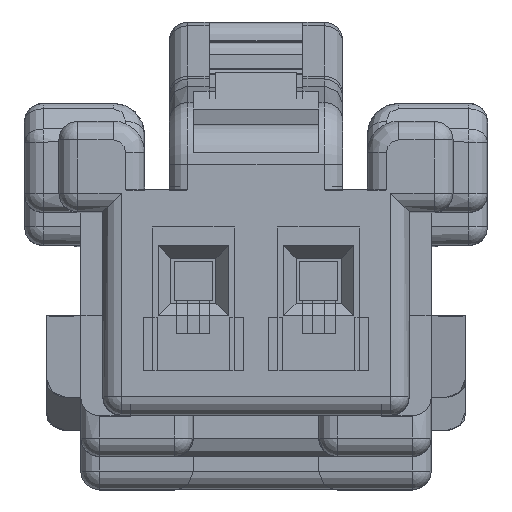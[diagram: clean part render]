
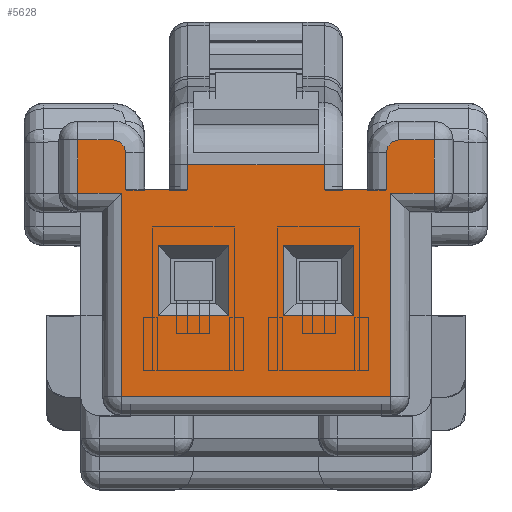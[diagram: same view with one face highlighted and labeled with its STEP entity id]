
A CAD part, top view. The second image highlights one B-rep face of the part: STEP entity #5628.
In plain terms, the highlighted planar face has unit normal (0, 0, 1).
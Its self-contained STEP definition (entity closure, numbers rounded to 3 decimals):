
#1=DIRECTION('',(0.,1.,0.));
#2=VECTOR('',#1,1.12);
#3=CARTESIAN_POINT('',(0.56,1.59,10.4));
#4=LINE('',#3,#2);
#17=DIRECTION('',(-1.,0.,0.));
#18=VECTOR('',#17,1.12);
#19=CARTESIAN_POINT('',(0.56,2.71,10.4));
#20=LINE('',#19,#18);
#37=DIRECTION('',(0.,-1.,0.));
#38=VECTOR('',#37,1.12);
#39=CARTESIAN_POINT('',(-0.56,2.71,10.4));
#40=LINE('',#39,#38);
#45=DIRECTION('',(1.,0.,0.));
#46=VECTOR('',#45,1.12);
#47=CARTESIAN_POINT('',(-0.56,1.59,10.4));
#48=LINE('',#47,#46);
#53=CARTESIAN_POINT('',(3.28,4.2,10.4));
#54=DIRECTION('',(0.,0.,1.));
#55=DIRECTION('',(0.,1.,0.));
#56=AXIS2_PLACEMENT_3D('',#53,#54,#55);
#58=CARTESIAN_POINT('',(-1.28,4.2,10.4));
#59=DIRECTION('',(0.,0.,1.));
#60=DIRECTION('',(1.,0.,0.));
#61=AXIS2_PLACEMENT_3D('',#58,#59,#60);
#63=DIRECTION('',(0.,1.,0.));
#64=VECTOR('',#63,1.12);
#65=CARTESIAN_POINT('',(2.56,1.59,10.4));
#66=LINE('',#65,#64);
#79=DIRECTION('',(-1.,0.,0.));
#80=VECTOR('',#79,1.12);
#81=CARTESIAN_POINT('',(2.56,2.71,10.4));
#82=LINE('',#81,#80);
#99=DIRECTION('',(0.,-1.,0.));
#100=VECTOR('',#99,1.12);
#101=CARTESIAN_POINT('',(1.44,2.71,10.4));
#102=LINE('',#101,#100);
#107=DIRECTION('',(1.,0.,0.));
#108=VECTOR('',#107,1.12);
#109=CARTESIAN_POINT('',(1.44,1.59,10.4));
#110=LINE('',#109,#108);
#458=DIRECTION('',(1.,0.,0.));
#459=VECTOR('',#458,0.99);
#460=CARTESIAN_POINT('',(-1.08,3.6,10.4));
#461=LINE('',#460,#459);
#486=DIRECTION('',(1.,0.,0.));
#487=VECTOR('',#486,0.99);
#488=CARTESIAN_POINT('',(2.09,3.6,10.4));
#489=LINE('',#488,#487);
#508=DIRECTION('',(0.,-1.,0.));
#509=VECTOR('',#508,0.6);
#510=CARTESIAN_POINT('',(-1.08,4.2,10.4));
#511=LINE('',#510,#509);
#531=DIRECTION('',(1.,0.,0.));
#532=VECTOR('',#531,0.57);
#533=CARTESIAN_POINT('',(-1.85,4.4,10.4));
#534=LINE('',#533,#532);
#554=DIRECTION('',(0.,1.,0.));
#555=VECTOR('',#554,0.85);
#556=CARTESIAN_POINT('',(-1.85,3.55,10.4));
#557=LINE('',#556,#555);
#577=DIRECTION('',(-1.,0.,0.));
#578=VECTOR('',#577,0.7);
#579=CARTESIAN_POINT('',(-1.15,3.55,10.4));
#580=LINE('',#579,#578);
#593=DIRECTION('',(0.,1.,0.));
#594=VECTOR('',#593,3.25);
#595=CARTESIAN_POINT('',(-1.15,0.3,10.4));
#596=LINE('',#595,#594);
#616=DIRECTION('',(-1.,0.,0.));
#617=VECTOR('',#616,4.3);
#618=CARTESIAN_POINT('',(3.15,0.3,10.4));
#619=LINE('',#618,#617);
#639=DIRECTION('',(0.,-1.,0.));
#640=VECTOR('',#639,3.25);
#641=CARTESIAN_POINT('',(3.15,3.55,10.4));
#642=LINE('',#641,#640);
#655=DIRECTION('',(-1.,0.,0.));
#656=VECTOR('',#655,0.7);
#657=CARTESIAN_POINT('',(3.85,3.55,10.4));
#658=LINE('',#657,#656);
#682=DIRECTION('',(0.,-1.,0.));
#683=VECTOR('',#682,0.85);
#684=CARTESIAN_POINT('',(3.85,4.4,10.4));
#685=LINE('',#684,#683);
#3277=DIRECTION('',(1.,0.,0.));
#3278=VECTOR('',#3277,0.57);
#3279=CARTESIAN_POINT('',(3.28,4.4,10.4));
#3280=LINE('',#3279,#3278);
#3300=DIRECTION('',(0.,1.,0.));
#3301=VECTOR('',#3300,0.6);
#3302=CARTESIAN_POINT('',(3.08,3.6,10.4));
#3303=LINE('',#3302,#3301);
#3487=DIRECTION('',(0.,-1.,0.));
#3488=VECTOR('',#3487,0.405);
#3489=CARTESIAN_POINT('',(2.09,4.005,10.4));
#3490=LINE('',#3489,#3488);
#3518=DIRECTION('',(1.,0.,0.));
#3519=VECTOR('',#3518,2.18);
#3520=CARTESIAN_POINT('',(-0.09,4.005,10.4));
#3521=LINE('',#3520,#3519);
#4235=DIRECTION('',(0.,1.,0.));
#4236=VECTOR('',#4235,0.405);
#4237=CARTESIAN_POINT('',(-0.09,3.6,10.4));
#4238=LINE('',#4237,#4236);
#4465=CARTESIAN_POINT('',(2.56,1.59,10.4));
#4466=CARTESIAN_POINT('',(2.56,2.71,10.4));
#4467=VERTEX_POINT('',#4465);
#4468=VERTEX_POINT('',#4466);
#4469=CARTESIAN_POINT('',(1.44,1.59,10.4));
#4470=VERTEX_POINT('',#4469);
#4471=CARTESIAN_POINT('',(1.44,2.71,10.4));
#4472=VERTEX_POINT('',#4471);
#4473=CARTESIAN_POINT('',(0.56,1.59,10.4));
#4474=CARTESIAN_POINT('',(0.56,2.71,10.4));
#4475=VERTEX_POINT('',#4473);
#4476=VERTEX_POINT('',#4474);
#4477=CARTESIAN_POINT('',(-0.56,1.59,10.4));
#4478=VERTEX_POINT('',#4477);
#4479=CARTESIAN_POINT('',(-0.56,2.71,10.4));
#4480=VERTEX_POINT('',#4479);
#4481=CARTESIAN_POINT('',(3.08,3.6,10.4));
#4482=CARTESIAN_POINT('',(3.08,4.2,10.4));
#4483=VERTEX_POINT('',#4481);
#4484=VERTEX_POINT('',#4482);
#4485=CARTESIAN_POINT('',(2.09,3.6,10.4));
#4486=VERTEX_POINT('',#4485);
#4487=CARTESIAN_POINT('',(2.09,4.005,10.4));
#4488=VERTEX_POINT('',#4487);
#4489=CARTESIAN_POINT('',(-0.09,4.005,10.4));
#4490=VERTEX_POINT('',#4489);
#4491=CARTESIAN_POINT('',(-0.09,3.6,10.4));
#4492=VERTEX_POINT('',#4491);
#4493=CARTESIAN_POINT('',(-1.08,3.6,10.4));
#4494=VERTEX_POINT('',#4493);
#4495=CARTESIAN_POINT('',(-1.08,4.2,10.4));
#4496=VERTEX_POINT('',#4495);
#4497=CARTESIAN_POINT('',(-1.28,4.4,10.4));
#4498=VERTEX_POINT('',#4497);
#4499=CARTESIAN_POINT('',(-1.85,4.4,10.4));
#4500=VERTEX_POINT('',#4499);
#4501=CARTESIAN_POINT('',(-1.85,3.55,10.4));
#4502=VERTEX_POINT('',#4501);
#4503=CARTESIAN_POINT('',(-1.15,3.55,10.4));
#4504=VERTEX_POINT('',#4503);
#4505=CARTESIAN_POINT('',(-1.15,0.3,10.4));
#4506=VERTEX_POINT('',#4505);
#4507=CARTESIAN_POINT('',(3.15,0.3,10.4));
#4508=VERTEX_POINT('',#4507);
#4509=CARTESIAN_POINT('',(3.15,3.55,10.4));
#4510=VERTEX_POINT('',#4509);
#4511=CARTESIAN_POINT('',(3.85,3.55,10.4));
#4512=VERTEX_POINT('',#4511);
#4513=CARTESIAN_POINT('',(3.85,4.4,10.4));
#4514=VERTEX_POINT('',#4513);
#4515=CARTESIAN_POINT('',(3.28,4.4,10.4));
#4516=VERTEX_POINT('',#4515);
#5569=CARTESIAN_POINT('',(0.,0.,10.4));
#5570=DIRECTION('',(0.,0.,1.));
#5571=DIRECTION('',(1.,0.,0.));
#5572=AXIS2_PLACEMENT_3D('',#5569,#5570,#5571);
#5573=PLANE('',#5572);
#5575=ORIENTED_EDGE('',*,*,#5574,.T.);
#5577=ORIENTED_EDGE('',*,*,#5576,.F.);
#5579=ORIENTED_EDGE('',*,*,#5578,.T.);
#5581=ORIENTED_EDGE('',*,*,#5580,.T.);
#5583=ORIENTED_EDGE('',*,*,#5582,.T.);
#5585=ORIENTED_EDGE('',*,*,#5584,.T.);
#5587=ORIENTED_EDGE('',*,*,#5586,.T.);
#5589=ORIENTED_EDGE('',*,*,#5588,.T.);
#5591=ORIENTED_EDGE('',*,*,#5590,.T.);
#5593=ORIENTED_EDGE('',*,*,#5592,.T.);
#5595=ORIENTED_EDGE('',*,*,#5594,.T.);
#5597=ORIENTED_EDGE('',*,*,#5596,.F.);
#5599=ORIENTED_EDGE('',*,*,#5598,.T.);
#5601=ORIENTED_EDGE('',*,*,#5600,.T.);
#5603=ORIENTED_EDGE('',*,*,#5602,.T.);
#5605=ORIENTED_EDGE('',*,*,#5604,.T.);
#5607=ORIENTED_EDGE('',*,*,#5606,.T.);
#5609=ORIENTED_EDGE('',*,*,#5608,.T.);
#5610=EDGE_LOOP('',(#5575,#5577,#5579,#5581,#5583,#5585,#5587,#5589,#5591,#5593,
#5595,#5597,#5599,#5601,#5603,#5605,#5607,#5609));
#5611=FACE_OUTER_BOUND('',#5610,.F.);
#5612=ORIENTED_EDGE('',*,*,#5494,.T.);
#5613=ORIENTED_EDGE('',*,*,#5510,.T.);
#5614=ORIENTED_EDGE('',*,*,#5528,.T.);
#5615=ORIENTED_EDGE('',*,*,#5562,.T.);
#5616=EDGE_LOOP('',(#5612,#5613,#5614,#5615));
#5617=FACE_BOUND('',#5616,.F.);
#5619=ORIENTED_EDGE('',*,*,#5618,.T.);
#5621=ORIENTED_EDGE('',*,*,#5620,.T.);
#5623=ORIENTED_EDGE('',*,*,#5622,.T.);
#5625=ORIENTED_EDGE('',*,*,#5624,.T.);
#5626=EDGE_LOOP('',(#5619,#5621,#5623,#5625));
#5627=FACE_BOUND('',#5626,.F.);
#5628=ADVANCED_FACE('',(#5611,#5617,#5627),#5573,.T.);
#57=CIRCLE('',#56,0.2);
#62=CIRCLE('',#61,0.2);
#5494=EDGE_CURVE('',#4475,#4476,#4,.T.);
#5510=EDGE_CURVE('',#4476,#4480,#20,.T.);
#5528=EDGE_CURVE('',#4480,#4478,#40,.T.);
#5562=EDGE_CURVE('',#4478,#4475,#48,.T.);
#5574=EDGE_CURVE('',#4483,#4484,#3303,.T.);
#5576=EDGE_CURVE('',#4516,#4484,#57,.T.);
#5578=EDGE_CURVE('',#4516,#4514,#3280,.T.);
#5580=EDGE_CURVE('',#4514,#4512,#685,.T.);
#5582=EDGE_CURVE('',#4512,#4510,#658,.T.);
#5584=EDGE_CURVE('',#4510,#4508,#642,.T.);
#5586=EDGE_CURVE('',#4508,#4506,#619,.T.);
#5588=EDGE_CURVE('',#4506,#4504,#596,.T.);
#5590=EDGE_CURVE('',#4504,#4502,#580,.T.);
#5592=EDGE_CURVE('',#4502,#4500,#557,.T.);
#5594=EDGE_CURVE('',#4500,#4498,#534,.T.);
#5596=EDGE_CURVE('',#4496,#4498,#62,.T.);
#5598=EDGE_CURVE('',#4496,#4494,#511,.T.);
#5600=EDGE_CURVE('',#4494,#4492,#461,.T.);
#5602=EDGE_CURVE('',#4492,#4490,#4238,.T.);
#5604=EDGE_CURVE('',#4490,#4488,#3521,.T.);
#5606=EDGE_CURVE('',#4488,#4486,#3490,.T.);
#5608=EDGE_CURVE('',#4486,#4483,#489,.T.);
#5618=EDGE_CURVE('',#4467,#4468,#66,.T.);
#5620=EDGE_CURVE('',#4468,#4472,#82,.T.);
#5622=EDGE_CURVE('',#4472,#4470,#102,.T.);
#5624=EDGE_CURVE('',#4470,#4467,#110,.T.);
